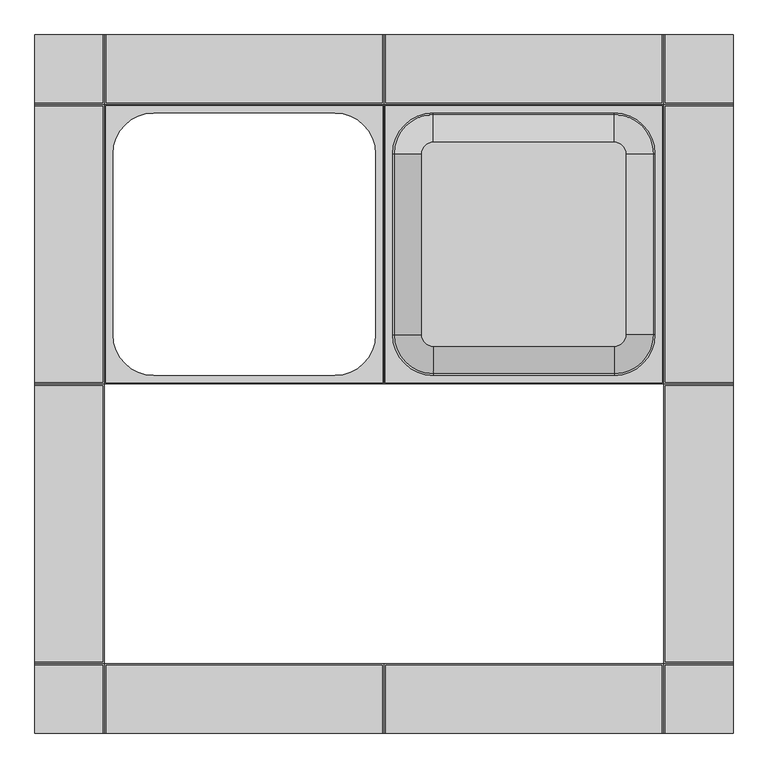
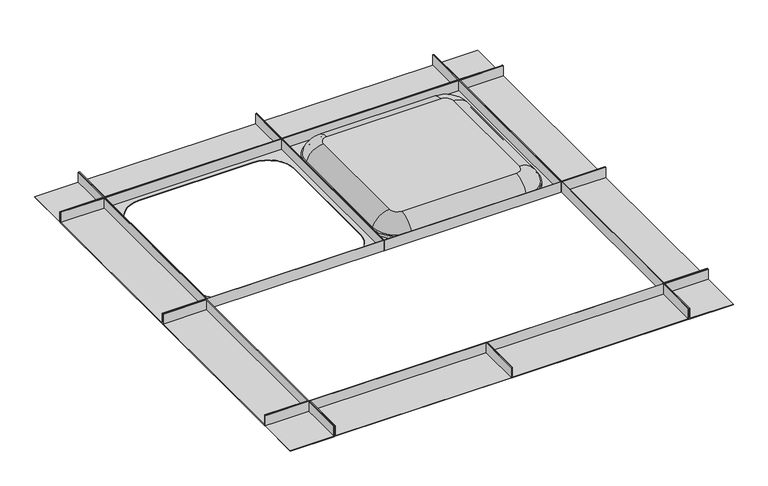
"""IFC4 building model written with IfcOpenShell, lengths in millimetres: proxy geometry, Maxxit_Concave-Ceiling_rev-01 : Maxxit_Concave-Ceiling_Solo."""

from ifc_helpers import new_model, si_unit, point, frame, origin, place, context, project, spatial, polyline, circle_curve, ellipse_curve, trimmed, faceted_brep, source, transform, mapped, element, save
from ifc_brep_helpers import plane_surface, cylinder_surface, revolved_surface, advanced_brep


def generic_models_7a7c092e(model_context):
    return source(origin(), model_context, "Body", "SolidModel", [
        faceted_brep([(150.8125, 1370.0125, 25.4), (0.0, 1370.0125, 25.4), (0.0, 1368.425, 25.4), (149.225, 1368.425, 25.4), (149.225, 763.5875, 25.4), (0.0, 763.5875, 25.4), (0.0, 762.0, 25.4), (150.8125, 762.0, 25.4), (150.8125, 1370.0125, -12.7), (150.8125, 762.0, -12.7), (0.0, 762.0, -12.7), (0.0, 1370.0125, -12.7), (0.0, 763.5875, -11.1125), (0.0, 1368.425, -11.1125), (149.225, 763.5875, -11.1125), (149.225, 1368.425, -11.1125)], [[[0, 1, 2, 3, 4, 5, 6, 7]], [[8, 9, 10, 11]], [[1, 0, 8, 11]], [[11, 10, 6, 5, 12, 13, 2, 1]], [[7, 6, 10, 9]], [[0, 7, 9, 8]], [[14, 15, 13, 12]], [[13, 15, 3, 2]], [[14, 12, 5, 4]], [[15, 14, 4, 3]]]),
        faceted_brep([(150.8125, 760.4125, 25.4), (0.0, 760.4125, 25.4), (0.0, 758.825, 25.4), (149.225, 758.825, 25.4), (149.225, 153.9875, 25.4), (0.0, 153.9875, 25.4), (0.0, 152.4, 25.4), (150.8125, 152.4, 25.4), (150.8125, 760.4125, -12.7), (150.8125, 152.4, -12.7), (0.0, 152.4, -12.7), (0.0, 760.4125, -12.7), (0.0, 153.9875, -11.1125), (0.0, 758.825, -11.1125), (149.225, 153.9875, -11.1125), (149.225, 758.825, -11.1125)], [[[0, 1, 2, 3, 4, 5, 6, 7]], [[8, 9, 10, 11]], [[1, 0, 8, 11]], [[11, 10, 6, 5, 12, 13, 2, 1]], [[7, 6, 10, 9]], [[0, 7, 9, 8]], [[14, 15, 13, 12]], [[13, 15, 3, 2]], [[14, 12, 5, 4]], [[15, 14, 4, 3]]]),
        faceted_brep([(1371.6, 1370.0125, 25.4), (1371.6, 762.0, 25.4), (1522.4125, 762.0, 25.4), (1522.4125, 763.5875, 25.4), (1373.1875, 763.5875, 25.4), (1373.1875, 1368.425, 25.4), (1522.4125, 1368.425, 25.4), (1522.4125, 1370.0125, 25.4), (1371.6, 1370.0125, -12.7), (1522.4125, 1370.0125, -12.7), (1522.4125, 762.0, -12.7), (1371.6, 762.0, -12.7), (1522.4125, 1368.425, -11.1125), (1522.4125, 763.5875, -11.1125), (1373.1875, 763.5875, -11.1125), (1373.1875, 1368.425, -11.1125)], [[[0, 1, 2, 3, 4, 5, 6, 7]], [[8, 9, 10, 11]], [[7, 9, 8, 0]], [[9, 7, 6, 12, 13, 3, 2, 10]], [[1, 11, 10, 2]], [[0, 8, 11, 1]], [[14, 13, 12, 15]], [[12, 6, 5, 15]], [[14, 4, 3, 13]], [[15, 5, 4, 14]]]),
        faceted_brep([(1371.6, 760.4125, 25.4), (1371.6, 152.4, 25.4), (1522.4125, 152.4, 25.4), (1522.4125, 153.9875, 25.4), (1373.1875, 153.9875, 25.4), (1373.1875, 758.825, 25.4), (1522.4125, 758.825, 25.4), (1522.4125, 760.4125, 25.4), (1371.6, 760.4125, -12.7), (1522.4125, 760.4125, -12.7), (1522.4125, 152.4, -12.7), (1371.6, 152.4, -12.7), (1522.4125, 758.825, -11.1125), (1522.4125, 153.9875, -11.1125), (1373.1875, 153.9875, -11.1125), (1373.1875, 758.825, -11.1125)], [[[0, 1, 2, 3, 4, 5, 6, 7]], [[8, 9, 10, 11]], [[7, 9, 8, 0]], [[9, 7, 6, 12, 13, 3, 2, 10]], [[1, 11, 10, 2]], [[0, 8, 11, 1]], [[14, 13, 12, 15]], [[12, 6, 5, 15]], [[14, 4, 3, 13]], [[15, 5, 4, 14]]]),
        faceted_brep([(1370.0125, 1371.6, 25.4), (1370.0125, 1522.4125, 25.4), (1368.425, 1522.4125, 25.4), (1368.425, 1373.1875, 25.4), (763.5875, 1373.1875, 25.4), (763.5875, 1522.4125, 25.4), (762.0, 1522.4125, 25.4), (762.0, 1371.6, 25.4), (1370.0125, 1371.6, -12.7), (762.0, 1371.6, -12.7), (762.0, 1522.4125, -12.7), (1370.0125, 1522.4125, -12.7), (763.5875, 1522.4125, -11.1125), (1368.425, 1522.4125, -11.1125), (1368.425, 1373.1875, -11.1125), (763.5875, 1373.1875, -11.1125)], [[[0, 1, 2, 3, 4, 5, 6, 7]], [[8, 9, 10, 11]], [[7, 9, 8, 0]], [[6, 10, 9, 7]], [[10, 6, 5, 12, 13, 2, 1, 11]], [[0, 8, 11, 1]], [[14, 13, 12, 15]], [[15, 4, 3, 14]], [[15, 12, 5, 4]], [[3, 2, 13, 14]]]),
        faceted_brep([(760.4125, 1371.6, 25.4), (760.4125, 1522.4125, 25.4), (758.825, 1522.4125, 25.4), (758.825, 1373.1875, 25.4), (153.9875, 1373.1875, 25.4), (153.9875, 1522.4125, 25.4), (152.4, 1522.4125, 25.4), (152.4, 1371.6, 25.4), (760.4125, 1371.6, -12.7), (152.4, 1371.6, -12.7), (152.4, 1522.4125, -12.7), (760.4125, 1522.4125, -12.7), (153.9875, 1522.4125, -11.1125), (758.825, 1522.4125, -11.1125), (758.825, 1373.1875, -11.1125), (153.9875, 1373.1875, -11.1125)], [[[0, 1, 2, 3, 4, 5, 6, 7]], [[8, 9, 10, 11]], [[7, 9, 8, 0]], [[6, 10, 9, 7]], [[10, 6, 5, 12, 13, 2, 1, 11]], [[0, 8, 11, 1]], [[14, 13, 12, 15]], [[15, 4, 3, 14]], [[15, 12, 5, 4]], [[3, 2, 13, 14]]]),
        faceted_brep([(1370.0125, 150.8125, 25.4), (762.0, 150.8125, 25.4), (762.0, 0.0, 25.4), (763.5875, 0.0, 25.4), (763.5875, 149.225, 25.4), (1368.425, 149.225, 25.4), (1368.425, 0.0, 25.4), (1370.0125, 0.0, 25.4), (1370.0125, 150.8125, -12.7), (1370.0125, 0.0, -12.7), (762.0, 0.0, -12.7), (762.0, 150.8125, -12.7), (1368.425, 0.0, -11.1125), (763.5875, 0.0, -11.1125), (1368.425, 149.225, -11.1125), (763.5875, 149.225, -11.1125)], [[[0, 1, 2, 3, 4, 5, 6, 7]], [[8, 9, 10, 11]], [[1, 0, 8, 11]], [[2, 1, 11, 10]], [[10, 9, 7, 6, 12, 13, 3, 2]], [[0, 7, 9, 8]], [[14, 15, 13, 12]], [[15, 14, 5, 4]], [[15, 4, 3, 13]], [[5, 14, 12, 6]]]),
        faceted_brep([(760.4125, 150.8125, 25.4), (152.4, 150.8125, 25.4), (152.4, 0.0, 25.4), (153.9875, 0.0, 25.4), (153.9875, 149.225, 25.4), (758.825, 149.225, 25.4), (758.825, 0.0, 25.4), (760.4125, 0.0, 25.4), (760.4125, 150.8125, -12.7), (760.4125, 0.0, -12.7), (152.4, 0.0, -12.7), (152.4, 150.8125, -12.7), (758.825, 0.0, -11.1125), (153.9875, 0.0, -11.1125), (758.825, 149.225, -11.1125), (153.9875, 149.225, -11.1125)], [[[0, 1, 2, 3, 4, 5, 6, 7]], [[8, 9, 10, 11]], [[1, 0, 8, 11]], [[2, 1, 11, 10]], [[10, 9, 7, 6, 12, 13, 3, 2]], [[0, 7, 9, 8]], [[14, 15, 13, 12]], [[15, 14, 5, 4]], [[15, 4, 3, 13]], [[5, 14, 12, 6]]]),
        faceted_brep([(1522.4125, 150.8125, 25.4), (1371.6, 150.8125, 25.4), (1371.6, 0.0, 25.4), (1373.1875, 0.0, 25.4), (1373.1875, 149.225, 25.4), (1522.4125, 149.225, 25.4), (1371.6, 0.0, -12.7), (1371.6, 150.8125, -12.7), (1522.4125, 150.8125, -12.7), (1522.4125, 0.0, -12.7), (1522.4125, 0.0, -11.1125), (1373.1875, 0.0, -11.1125), (1522.4125, 149.225, -11.1125), (1373.1875, 149.225, -11.1125)], [[[0, 1, 2, 3, 4, 5]], [[6, 7, 8, 9]], [[6, 9, 10, 11, 3, 2]], [[9, 8, 0, 5, 12, 10]], [[2, 1, 7, 6]], [[1, 0, 8, 7]], [[13, 11, 10, 12]], [[11, 13, 4, 3]], [[13, 12, 5, 4]]]),
        faceted_brep([(150.8125, 0.0, 25.4), (150.8125, 150.8125, 25.4), (0.0, 150.8125, 25.4), (0.0, 149.225, 25.4), (149.225, 149.225, 25.4), (149.225, 0.0, 25.4), (0.0, 150.8125, -12.7), (150.8125, 150.8125, -12.7), (150.8125, 0.0, -12.7), (0.0, 0.0, -12.7), (0.0, 0.0, -11.1125), (0.0, 149.225, -11.1125), (149.225, 0.0, -11.1125), (149.225, 149.225, -11.1125)], [[[0, 1, 2, 3, 4, 5]], [[6, 7, 8, 9]], [[6, 9, 10, 11, 3, 2]], [[9, 8, 0, 5, 12, 10]], [[1, 0, 8, 7]], [[2, 1, 7, 6]], [[13, 11, 10, 12]], [[11, 13, 4, 3]], [[13, 12, 5, 4]]]),
        faceted_brep([(150.8125, 1371.6, 25.4), (150.8125, 1522.4125, 25.4), (149.225, 1522.4125, 25.4), (149.225, 1373.1875, 25.4), (0.0, 1373.1875, 25.4), (0.0, 1371.6, 25.4), (150.8125, 1371.6, -12.7), (0.0, 1371.6, -12.7), (0.0, 1522.4125, -12.7), (150.8125, 1522.4125, -12.7), (0.0, 1522.4125, -11.1125), (149.225, 1522.4125, -11.1125), (0.0, 1373.1875, -11.1125), (149.225, 1373.1875, -11.1125)], [[[0, 1, 2, 3, 4, 5]], [[6, 7, 8, 9]], [[1, 0, 6, 9]], [[0, 5, 7, 6]], [[9, 8, 10, 11, 2, 1]], [[8, 7, 5, 4, 12, 10]], [[13, 11, 10, 12]], [[11, 13, 3, 2]], [[13, 12, 4, 3]]]),
        faceted_brep([(1371.6, 1522.4125, 25.4), (1371.6, 1371.6, 25.4), (1522.4125, 1371.6, 25.4), (1522.4125, 1373.1875, 25.4), (1373.1875, 1373.1875, 25.4), (1373.1875, 1522.4125, 25.4), (1371.6, 1522.4125, -12.7), (1522.4125, 1522.4125, -12.7), (1522.4125, 1371.6, -12.7), (1371.6, 1371.6, -12.7), (1373.1875, 1522.4125, -11.1125), (1522.4125, 1522.4125, -11.1125), (1522.4125, 1373.1875, -11.1125), (1373.1875, 1373.1875, -11.1125)], [[[0, 1, 2, 3, 4, 5]], [[6, 7, 8, 9]], [[7, 6, 0, 5, 10, 11]], [[1, 0, 6, 9]], [[2, 1, 9, 8]], [[8, 7, 11, 12, 3, 2]], [[13, 12, 11, 10]], [[12, 13, 4, 3]], [[13, 10, 5, 4]]]),
        advanced_brep(
        [(762.0, 762.0, -12.7), (762.0, 1370.0125, -12.7), (1370.0125, 1370.0125, -12.7), (1370.0125, 762.0, -12.7), (1352.0125, 869.0, -12.7), (1352.0125, 1263.0125, -12.7), (1263.0125, 1352.0125, -12.7), (869.0, 1352.0125, -12.7), (780.0, 1263.0125, -12.7), (780.0, 869.0, -12.7), (869.0, 780.0, -12.7), (1263.0125, 780.0, -12.7), (762.0, 762.0, 25.4), (1370.0125, 762.0, 25.4), (1370.0125, 1370.0125, 25.4), (762.0, 1370.0125, 25.4), (1368.425, 763.5875, 25.4), (763.5875, 763.5875, 25.4), (763.5875, 1368.425, 25.4), (1368.425, 1368.425, 25.4), (1352.0125, 869.0, -11.1125), (1352.0125, 1263.0125, -11.1125), (1263.0125, 780.0, -11.1125), (1263.0125, 1352.0125, -11.1125), (869.0, 780.0, -11.1125), (780.0, 869.0, -11.1125), (780.0, 1263.0125, -11.1125), (869.0, 1352.0125, -11.1125), (763.5875, 763.5875, -11.1125), (1368.425, 763.5875, -11.1125), (1368.425, 1368.425, -11.1125), (763.5875, 1368.425, -11.1125)],
        [
            (0, 1),
            (1, 2),
            (2, 3),
            (3, 0),
            (4, 5),
            (5, 6, circle_curve(frame((1263.0125, 1263.0125, -12.7), z_axis=(0.0, 0.0, 1.0), x_axis=(-1.0, 0.0, 0.0)), 89.0)),
            (6, 7),
            (7, 8, circle_curve(frame((869.0, 1263.0125, -12.7), z_axis=(0.0, 0.0, 1.0), x_axis=(-1.0, 0.0, 0.0)), 89.0)),
            (8, 9),
            (9, 10, circle_curve(frame((869.0, 869.0, -12.7), z_axis=(0.0, 0.0, 1.0), x_axis=(-1.0, 0.0, 0.0)), 89.0)),
            (10, 11),
            (11, 4, circle_curve(frame((1263.0125, 869.0, -12.7), z_axis=(0.0, 0.0, 1.0), x_axis=(-1.0, 0.0, 0.0)), 89.0)),
            (12, 13),
            (13, 14),
            (14, 15),
            (15, 12),
            (16, 17),
            (17, 18),
            (18, 19),
            (19, 16),
            (12, 0),
            (3, 13),
            (2, 14),
            (1, 15),
            (4, 20),
            (20, 21),
            (21, 5),
            (11, 22),
            (22, 20, circle_curve(frame((1263.0125, 869.0, -11.1125), z_axis=(0.0, 0.0, 1.0), x_axis=(-1.0, 0.0, 0.0)), 89.0)),
            (21, 23, circle_curve(frame((1263.0125, 1263.0125, -11.1125), z_axis=(0.0, 0.0, 1.0), x_axis=(-1.0, 0.0, 0.0)), 89.0)),
            (23, 6),
            (10, 24),
            (24, 22),
            (9, 25),
            (25, 24, circle_curve(frame((869.0, 869.0, -11.1125), z_axis=(0.0, 0.0, 1.0), x_axis=(-1.0, 0.0, 0.0)), 89.0)),
            (8, 26),
            (26, 25),
            (7, 27),
            (27, 26, circle_curve(frame((869.0, 1263.0125, -11.1125), z_axis=(0.0, 0.0, 1.0), x_axis=(-1.0, 0.0, 0.0)), 89.0)),
            (23, 27),
            (28, 29),
            (29, 30),
            (30, 31),
            (31, 28),
            (28, 17),
            (16, 29),
            (19, 30),
            (18, 31),
        ],
        [
            plane_surface(frame((1370.0125, 762.0, -12.7), z_axis=(0.0, 0.0, -1.0), x_axis=(-1.0, 0.0, 0.0))),
            plane_surface(frame((1370.0125, 762.0, 25.4), z_axis=(0.0, 0.0, 1.0), x_axis=(1.0, 0.0, 0.0))),
            plane_surface(frame((762.0, 762.0, 25.4), z_axis=(0.0, -1.0, 0.0), x_axis=(0.0, 0.0, -1.0))),
            plane_surface(frame((1370.0125, 762.0, 25.4), z_axis=(1.0, 0.0, 0.0), x_axis=(0.0, 0.0, -1.0))),
            plane_surface(frame((1370.0125, 1370.0125, 25.4), z_axis=(0.0, 1.0, 0.0), x_axis=(0.0, 0.0, -1.0))),
            plane_surface(frame((762.0, 1370.0125, 25.4), z_axis=(-1.0, 0.0, 0.0), x_axis=(0.0, 0.0, -1.0))),
            plane_surface(frame((1352.0125, 1263.0125, 25.4), z_axis=(-1.0, 0.0, 0.0), x_axis=(0.0, 0.0, -1.0))),
            revolved_surface(polyline([(1174.0125, 869.0, -12.7), (1174.0125, 869.0, -11.1125)]), (1263.0125, 869.0, 0.0), (0.0, 0.0, -1.0)),
            revolved_surface(polyline([(1174.0125, 1263.0125, -12.7), (1174.0125, 1263.0125, -11.1125)]), (1263.0125, 1263.0125, 0.0), (0.0, 0.0, -1.0)),
            plane_surface(frame((1263.0125, 780.0, 25.4), z_axis=(0.0, 1.0, 0.0), x_axis=(0.0, 0.0, -1.0))),
            revolved_surface(polyline([(780.0, 869.0, -12.7), (780.0, 869.0, -11.1125)]), (869.0, 869.0, 0.0), (0.0, 0.0, -1.0)),
            plane_surface(frame((780.0, 869.0, 25.4), z_axis=(1.0, 0.0, 0.0), x_axis=(0.0, 0.0, -1.0))),
            revolved_surface(polyline([(780.0, 1263.0125, -12.7), (780.0, 1263.0125, -11.1125)]), (869.0, 1263.0125, 0.0), (0.0, 0.0, -1.0)),
            plane_surface(frame((869.0, 1352.0125, 25.4), z_axis=(0.0, -1.0, 0.0), x_axis=(0.0, 0.0, -1.0))),
            plane_surface(frame((1369.0262746, 763.5875, -11.1125), z_axis=(0.0, 0.0, 1.0), x_axis=(-1.0, 0.0, 0.0))),
            plane_surface(frame((763.5875, 763.5875, 27.1388986), z_axis=(0.0, 1.0, 0.0), x_axis=(0.0, 0.0, -1.0))),
            plane_surface(frame((1368.425, 763.5875, 27.1388986), z_axis=(-1.0, 0.0, 0.0), x_axis=(0.0, 0.0, -1.0))),
            plane_surface(frame((1368.425, 1368.425, 27.1388986), z_axis=(0.0, -1.0, 0.0), x_axis=(0.0, 0.0, -1.0))),
            plane_surface(frame((763.5875, 1368.425, 27.1388986), z_axis=(1.0, 0.0, 0.0), x_axis=(0.0, 0.0, -1.0))),
        ],
        [
            (0, [[1, 2, 3, 4], [5, 6, 7, 8, 9, 10, 11, 12]]),
            (1, [[13, 14, 15, 16], [17, 18, 19, 20]]),
            (2, [[-13, 21, -4, 22]]),
            (3, [[-14, -22, -3, 23]]),
            (4, [[-15, -23, -2, 24]]),
            (5, [[-16, -24, -1, -21]]),
            (6, [[-5, 25, 26, 27]]),
            (7, [[-12, 28, 29, -25]]),
            (8, [[-6, -27, 30, 31]]),
            (9, [[-11, 32, 33, -28]]),
            (10, [[-10, 34, 35, -32]]),
            (11, [[-9, 36, 37, -34]]),
            (12, [[-8, 38, 39, -36]]),
            (13, [[-7, -31, 40, -38]]),
            (14, [[41, 42, 43, 44], [-26, -29, -33, -35, -37, -39, -40, -30]]),
            (15, [[-41, 45, -17, 46]]),
            (16, [[-42, -46, -20, 47]]),
            (17, [[-43, -47, -19, 48]]),
            (18, [[-44, -48, -18, -45]]),
        ],
    ),
        advanced_brep(
        [(1288.6117964, 1263.0125, 44.45), (1263.0125, 1288.6117964, 44.45), (869.0, 1288.6117964, 44.45), (843.4007036, 1263.0125, 44.45), (843.4007036, 869.0, 44.45), (869.0, 843.4007036, 44.45), (1263.0125, 843.4007036, 44.45), (1288.6117964, 869.0, 44.45), (1263.0125, 1288.6117964, 34.925), (1288.6117964, 1263.0125, 34.925), (1288.6117964, 869.0, 34.925), (1263.0125, 843.4007036, 34.925), (869.0, 843.4007036, 34.925), (843.4007036, 869.0, 34.925), (843.4007036, 1263.0125, 34.925), (869.0, 1288.6117964, 34.925), (1263.0125, 1352.0125, -1.5875), (1352.0125, 1263.0125, -1.5875), (1352.0125, 1263.0125, -11.1125), (1263.0125, 1352.0125, -11.1125), (1263.0125, 1348.9934189, 0.6047619), (1348.9934189, 1263.0125, 0.6047619), (1263.0125, 1339.9361755, -2.3434524), (1339.9361755, 1263.0125, -2.3434524), (869.0, 1352.0125, -11.1125), (869.0, 1352.0125, -1.5875), (869.0, 1348.9934189, 0.6047619), (869.0, 1339.9361755, -2.3434524), (780.0, 1263.0125, -11.1125), (780.0, 1263.0125, -1.5875), (783.0190811, 1263.0125, 0.6047619), (792.0763245, 1263.0125, -2.3434524), (780.0, 869.0, -11.1125), (780.0, 869.0, -1.5875), (783.0190811, 869.0, 0.6047619), (792.0763245, 869.0, -2.3434524), (869.0, 780.0, -11.1125), (869.0, 780.0, -1.5875), (869.0, 783.0190811, 0.6047619), (869.0, 792.0763245, -2.3434524), (1263.0125, 780.0, -11.1125), (1263.0125, 780.0, -1.5875), (1263.0125, 783.0190811, 0.6047619), (1263.0125, 792.0763245, -2.3434524), (1352.0125, 869.0, -11.1125), (1352.0125, 869.0, -1.5875), (1348.9934189, 869.0, 0.6047619), (1339.9361755, 869.0, -2.3434524)],
        [
            (0, 1, circle_curve(frame((1263.0125, 1263.0125, 44.45), z_axis=(0.0, 0.0, 1.0), x_axis=(1.0, 0.0, 0.0)), 25.5992964)),
            (1, 2),
            (2, 3, circle_curve(frame((869.0, 1263.0125, 44.45), z_axis=(0.0, 0.0, 1.0), x_axis=(0.0, 1.0, 0.0)), 25.5992964)),
            (3, 4),
            (4, 5, circle_curve(frame((869.0, 869.0, 44.45), z_axis=(0.0, 0.0, 1.0), x_axis=(-1.0, 0.0, 0.0)), 25.5992964)),
            (5, 6),
            (6, 7, circle_curve(frame((1263.0125, 869.0, 44.45), z_axis=(0.0, 0.0, 1.0), x_axis=(0.0, -1.0, 0.0)), 25.5992964)),
            (7, 0),
            (8, 9, circle_curve(frame((1263.0125, 1263.0125, 34.925), z_axis=(0.0, 0.0, -1.0), x_axis=(1.0, 0.0, 0.0)), 25.5992964)),
            (9, 10),
            (10, 11, circle_curve(frame((1263.0125, 869.0, 34.925), z_axis=(0.0, 0.0, -1.0), x_axis=(0.0, -1.0, 0.0)), 25.5992964)),
            (11, 12),
            (12, 13, circle_curve(frame((869.0, 869.0, 34.925), z_axis=(0.0, 0.0, -1.0), x_axis=(-1.0, 0.0, 0.0)), 25.5992964)),
            (13, 14),
            (14, 15, circle_curve(frame((869.0, 1263.0125, 34.925), z_axis=(0.0, 0.0, -1.0), x_axis=(0.0, 1.0, 0.0)), 25.5992964)),
            (15, 8),
            (16, 17, circle_curve(frame((1263.0125, 1263.0125, -1.5875), z_axis=(0.0, 0.0, -1.0), x_axis=(1.0, 0.0, 0.0)), 89.0)),
            (17, 18),
            (18, 19, circle_curve(frame((1263.0125, 1263.0125, -11.1125), z_axis=(0.0, 0.0, 1.0), x_axis=(1.0, 0.0, 0.0)), 89.0)),
            (19, 16),
            (16, 20, circle_curve(frame((1263.0125, 1352.0125, 1.5875), z_axis=(-1.0, 0.0, 0.0), x_axis=(0.0, -1.0, 0.0)), 3.175)),
            (20, 21, circle_curve(frame((1263.0125, 1263.0125, 0.6047619), z_axis=(0.0, 0.0, -1.0), x_axis=(1.0, 0.0, 0.0)), 85.9809189)),
            (21, 17, circle_curve(frame((1352.0125, 1263.0125, 1.5875), z_axis=(0.0, -1.0, 0.0), x_axis=(-1.0, 0.0, 0.0)), 3.175)),
            (20, 1, circle_curve(frame((1263.0125, 1288.6117964, -19.05), z_axis=(1.0, 0.0, 0.0), x_axis=(0.0, -1.0, 0.0)), 63.5)),
            (0, 21, circle_curve(frame((1288.6117964, 1263.0125, -19.05), z_axis=(0.0, 1.0, 0.0), x_axis=(-1.0, 0.0, 0.0)), 63.5)),
            (22, 23, circle_curve(frame((1263.0125, 1263.0125, -2.3434524), z_axis=(0.0, 0.0, -1.0), x_axis=(1.0, 0.0, 0.0)), 76.9236755)),
            (23, 9, circle_curve(frame((1288.6117964, 1263.0125, -19.05), z_axis=(0.0, -1.0, 0.0), x_axis=(-1.0, 0.0, 0.0)), 53.975)),
            (8, 22, circle_curve(frame((1263.0125, 1288.6117964, -19.05), z_axis=(-1.0, 0.0, 0.0), x_axis=(0.0, -1.0, 0.0)), 53.975)),
            (18, 23, circle_curve(frame((1352.0125, 1263.0125, 1.5875), z_axis=(0.0, 1.0, 0.0), x_axis=(-1.0, 0.0, 0.0)), 12.7)),
            (22, 19, circle_curve(frame((1263.0125, 1352.0125, 1.5875), z_axis=(1.0, 0.0, 0.0), x_axis=(0.0, -1.0, 0.0)), 12.7)),
            (19, 24),
            (24, 25),
            (25, 16),
            (25, 26, circle_curve(frame((869.0, 1352.0125, 1.5875), z_axis=(-1.0, 0.0, 0.0), x_axis=(0.0, -1.0, 0.0)), 3.175)),
            (26, 20),
            (26, 2, circle_curve(frame((869.0, 1288.6117964, -19.05), z_axis=(1.0, 0.0, 0.0), x_axis=(0.0, -1.0, 0.0)), 63.5)),
            (15, 27, circle_curve(frame((869.0, 1288.6117964, -19.05), z_axis=(-1.0, 0.0, 0.0), x_axis=(0.0, -1.0, 0.0)), 53.975)),
            (27, 22),
            (27, 24, circle_curve(frame((869.0, 1352.0125, 1.5875), z_axis=(1.0, 0.0, 0.0), x_axis=(0.0, -1.0, 0.0)), 12.7)),
            (24, 28, circle_curve(frame((869.0, 1263.0125, -11.1125), z_axis=(0.0, 0.0, 1.0), x_axis=(0.0, 1.0, 0.0)), 89.0)),
            (28, 29),
            (29, 25, circle_curve(frame((869.0, 1263.0125, -1.5875), z_axis=(0.0, 0.0, -1.0), x_axis=(0.0, 1.0, 0.0)), 89.0)),
            (29, 30, circle_curve(frame((780.0, 1263.0125, 1.5875), z_axis=(0.0, -1.0, 0.0), x_axis=(1.0, 0.0, 0.0)), 3.175)),
            (30, 26, circle_curve(frame((869.0, 1263.0125, 0.6047619), z_axis=(0.0, 0.0, -1.0), x_axis=(0.0, 1.0, 0.0)), 85.9809189)),
            (30, 3, circle_curve(frame((843.4007036, 1263.0125, -19.05), z_axis=(0.0, 1.0, 0.0), x_axis=(1.0, 0.0, 0.0)), 63.5)),
            (14, 31, circle_curve(frame((843.4007036, 1263.0125, -19.05), z_axis=(0.0, -1.0, 0.0), x_axis=(1.0, 0.0, 0.0)), 53.975)),
            (31, 27, circle_curve(frame((869.0, 1263.0125, -2.3434524), z_axis=(0.0, 0.0, -1.0), x_axis=(0.0, 1.0, 0.0)), 76.9236755)),
            (31, 28, circle_curve(frame((780.0, 1263.0125, 1.5875), z_axis=(0.0, 1.0, 0.0), x_axis=(1.0, 0.0, 0.0)), 12.7)),
            (28, 32),
            (32, 33),
            (33, 29),
            (33, 34, circle_curve(frame((780.0, 869.0, 1.5875), z_axis=(0.0, -1.0, 0.0), x_axis=(1.0, 0.0, 0.0)), 3.175)),
            (34, 30),
            (34, 4, circle_curve(frame((843.4007036, 869.0, -19.05), z_axis=(0.0, 1.0, 0.0), x_axis=(1.0, 0.0, 0.0)), 63.5)),
            (13, 35, circle_curve(frame((843.4007036, 869.0, -19.05), z_axis=(0.0, -1.0, 0.0), x_axis=(1.0, 0.0, 0.0)), 53.975)),
            (35, 31),
            (35, 32, circle_curve(frame((780.0, 869.0, 1.5875), z_axis=(0.0, 1.0, 0.0), x_axis=(1.0, 0.0, 0.0)), 12.7)),
            (32, 36, circle_curve(frame((869.0, 869.0, -11.1125), z_axis=(0.0, 0.0, 1.0), x_axis=(-1.0, 0.0, 0.0)), 89.0)),
            (36, 37),
            (37, 33, circle_curve(frame((869.0, 869.0, -1.5875), z_axis=(0.0, 0.0, -1.0), x_axis=(-1.0, 0.0, 0.0)), 89.0)),
            (37, 38, circle_curve(frame((869.0, 780.0, 1.5875), z_axis=(1.0, 0.0, 0.0), x_axis=(0.0, 1.0, 0.0)), 3.175)),
            (38, 34, circle_curve(frame((869.0, 869.0, 0.6047619), z_axis=(0.0, 0.0, -1.0), x_axis=(-1.0, 0.0, 0.0)), 85.9809189)),
            (38, 5, circle_curve(frame((869.0, 843.4007036, -19.05), z_axis=(-1.0, 0.0, 0.0), x_axis=(0.0, 1.0, 0.0)), 63.5)),
            (12, 39, circle_curve(frame((869.0, 843.4007036, -19.05), z_axis=(1.0, 0.0, 0.0), x_axis=(0.0, 1.0, 0.0)), 53.975)),
            (39, 35, circle_curve(frame((869.0, 869.0, -2.3434524), z_axis=(0.0, 0.0, -1.0), x_axis=(-1.0, 0.0, 0.0)), 76.9236755)),
            (39, 36, circle_curve(frame((869.0, 780.0, 1.5875), z_axis=(-1.0, 0.0, 0.0), x_axis=(0.0, 1.0, 0.0)), 12.7)),
            (36, 40),
            (40, 41),
            (41, 37),
            (41, 42, circle_curve(frame((1263.0125, 780.0, 1.5875), z_axis=(1.0, 0.0, 0.0), x_axis=(0.0, 1.0, 0.0)), 3.175)),
            (42, 38),
            (42, 6, circle_curve(frame((1263.0125, 843.4007036, -19.05), z_axis=(-1.0, 0.0, 0.0), x_axis=(0.0, 1.0, 0.0)), 63.5)),
            (11, 43, circle_curve(frame((1263.0125, 843.4007036, -19.05), z_axis=(1.0, 0.0, 0.0), x_axis=(0.0, 1.0, 0.0)), 53.975)),
            (43, 39),
            (43, 40, circle_curve(frame((1263.0125, 780.0, 1.5875), z_axis=(-1.0, 0.0, 0.0), x_axis=(0.0, 1.0, 0.0)), 12.7)),
            (40, 44, circle_curve(frame((1263.0125, 869.0, -11.1125), z_axis=(0.0, 0.0, 1.0), x_axis=(0.0, -1.0, 0.0)), 89.0)),
            (44, 45),
            (45, 41, circle_curve(frame((1263.0125, 869.0, -1.5875), z_axis=(0.0, 0.0, -1.0), x_axis=(0.0, -1.0, 0.0)), 89.0)),
            (45, 46, circle_curve(frame((1352.0125, 869.0, 1.5875), z_axis=(0.0, 1.0, 0.0), x_axis=(-1.0, 0.0, 0.0)), 3.175)),
            (46, 42, circle_curve(frame((1263.0125, 869.0, 0.6047619), z_axis=(0.0, 0.0, -1.0), x_axis=(0.0, -1.0, 0.0)), 85.9809189)),
            (46, 7, circle_curve(frame((1288.6117964, 869.0, -19.05), z_axis=(0.0, -1.0, 0.0), x_axis=(-1.0, 0.0, 0.0)), 63.5)),
            (10, 47, circle_curve(frame((1288.6117964, 869.0, -19.05), z_axis=(0.0, 1.0, 0.0), x_axis=(-1.0, 0.0, 0.0)), 53.975)),
            (47, 43, circle_curve(frame((1263.0125, 869.0, -2.3434524), z_axis=(0.0, 0.0, -1.0), x_axis=(0.0, -1.0, 0.0)), 76.9236755)),
            (47, 44, circle_curve(frame((1352.0125, 869.0, 1.5875), z_axis=(0.0, -1.0, 0.0), x_axis=(-1.0, 0.0, 0.0)), 12.7)),
            (17, 45),
            (44, 18),
            (21, 46),
            (23, 47),
        ],
        [
            plane_surface(frame((859.6573389, 869.0, 44.45), z_axis=(0.0, 0.0, 1.0), x_axis=(0.0, -1.0, 0.0))),
            plane_surface(frame((859.6573389, 869.0, 34.925), z_axis=(0.0, 0.0, -1.0), x_axis=(0.0, 1.0, 0.0))),
            cylinder_surface(frame((1263.0125, 1263.0125, 25.4), z_axis=(0.0, 0.0, 1.0), x_axis=(1.0, 0.0, 0.0)), 89.0),
            revolved_surface(trimmed(ellipse_curve(frame((1352.0125, 1263.0125, 1.5875), z_axis=(0.0, 1.0, 0.0), x_axis=(-1.0, 0.0, 0.0)), 3.175, 3.175), [point((1352.0125, 1263.0125, -1.5875))], [point((1348.9934189, 1263.0125, 0.6047619))], True, "CARTESIAN"), (1263.0125, 1263.0125, 25.4), (0.0, 0.0, 1.0)),
            revolved_surface(trimmed(ellipse_curve(frame((1288.6117964, 1263.0125, -19.05), z_axis=(0.0, -1.0, 0.0), x_axis=(-1.0, 0.0, 0.0)), 63.5, 63.5), [point((1348.9934189, 1263.0125, 0.6047619))], [point((1288.6117964, 1263.0125, 44.45))], True, "CARTESIAN"), (1263.0125, 1263.0125, 25.4), (0.0, 0.0, 1.0)),
            revolved_surface(trimmed(ellipse_curve(frame((1288.6117964, 1263.0125, -19.05), z_axis=(0.0, 1.0, 0.0), x_axis=(-1.0, 0.0, 0.0)), 53.975, 53.975), [point((1288.6117964, 1263.0125, 34.925))], [point((1339.9361755, 1263.0125, -2.3434524))], True, "CARTESIAN"), (1263.0125, 1263.0125, 25.4), (0.0, 0.0, 1.0)),
            revolved_surface(trimmed(ellipse_curve(frame((1352.0125, 1263.0125, 1.5875), z_axis=(0.0, -1.0, 0.0), x_axis=(-1.0, 0.0, 0.0)), 12.7, 12.7), [point((1339.9361755, 1263.0125, -2.3434524))], [point((1352.0125, 1263.0125, -11.1125))], True, "CARTESIAN"), (1263.0125, 1263.0125, 25.4), (0.0, 0.0, 1.0)),
            plane_surface(frame((1263.0125, 1352.0125, -11.1125), z_axis=(0.0, 1.0, 0.0), x_axis=(-1.0, 0.0, 0.0))),
            revolved_surface(polyline([(869.0, 1348.8375, 1.5875), (1263.0125, 1348.8375, 1.5875)]), (1263.0125, 1352.0125, 1.5875), (-1.0, 0.0, 0.0)),
            cylinder_surface(frame((1263.0125, 1288.6117964, -19.05), z_axis=(1.0, 0.0, 0.0), x_axis=(0.0, -1.0, 0.0)), 63.5),
            revolved_surface(polyline([(869.0, 1234.6367964, -19.05), (1263.0125, 1234.6367964, -19.05)]), (1263.0125, 1288.6117964, -19.05), (-1.0, 0.0, 0.0)),
            cylinder_surface(frame((1263.0125, 1352.0125, 1.5875), z_axis=(1.0, 0.0, 0.0), x_axis=(0.0, -1.0, 0.0)), 12.7),
            cylinder_surface(frame((869.0, 1263.0125, 25.4), z_axis=(0.0, 0.0, 1.0), x_axis=(0.0, 1.0, 0.0)), 89.0),
            revolved_surface(trimmed(ellipse_curve(frame((869.0, 1352.0125, 1.5875), z_axis=(-1.0, 0.0, 0.0), x_axis=(0.0, -1.0, 0.0)), 3.175, 3.175), [point((869.0, 1352.0125, -1.5875))], [point((869.0, 1348.9934189, 0.6047619))], True, "CARTESIAN"), (869.0, 1263.0125, 25.4), (0.0, 0.0, 1.0)),
            revolved_surface(trimmed(ellipse_curve(frame((869.0, 1288.6117964, -19.05), z_axis=(1.0, 0.0, 0.0), x_axis=(0.0, -1.0, 0.0)), 63.5, 63.5), [point((869.0, 1348.9934189, 0.6047619))], [point((869.0, 1288.6117964, 44.45))], True, "CARTESIAN"), (869.0, 1263.0125, 25.4), (0.0, 0.0, 1.0)),
            revolved_surface(trimmed(ellipse_curve(frame((869.0, 1288.6117964, -19.05), z_axis=(-1.0, 0.0, 0.0), x_axis=(0.0, -1.0, 0.0)), 53.975, 53.975), [point((869.0, 1288.6117964, 34.925))], [point((869.0, 1339.9361755, -2.3434524))], True, "CARTESIAN"), (869.0, 1263.0125, 25.4), (0.0, 0.0, 1.0)),
            revolved_surface(trimmed(ellipse_curve(frame((869.0, 1352.0125, 1.5875), z_axis=(1.0, 0.0, 0.0), x_axis=(0.0, -1.0, 0.0)), 12.7, 12.7), [point((869.0, 1339.9361755, -2.3434524))], [point((869.0, 1352.0125, -11.1125))], True, "CARTESIAN"), (869.0, 1263.0125, 25.4), (0.0, 0.0, 1.0)),
            plane_surface(frame((780.0, 1263.0125, -11.1125), z_axis=(-1.0, 0.0, 0.0), x_axis=(0.0, -1.0, 0.0))),
            revolved_surface(polyline([(783.175, 869.0, 1.5875), (783.175, 1263.0125, 1.5875)]), (780.0, 1263.0125, 1.5875), (0.0, -1.0, 0.0)),
            cylinder_surface(frame((843.4007036, 1263.0125, -19.05), z_axis=(0.0, 1.0, 0.0), x_axis=(1.0, 0.0, 0.0)), 63.5),
            revolved_surface(polyline([(897.3757036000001, 869.0, -19.05), (897.3757036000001, 1263.0125, -19.05)]), (843.4007036, 1263.0125, -19.05), (0.0, -1.0, 0.0)),
            cylinder_surface(frame((780.0, 1263.0125, 1.5875), z_axis=(0.0, 1.0, 0.0), x_axis=(1.0, 0.0, 0.0)), 12.7),
            cylinder_surface(frame((869.0, 869.0, 25.4), z_axis=(0.0, 0.0, 1.0), x_axis=(-1.0, 0.0, 0.0)), 89.0),
            revolved_surface(trimmed(ellipse_curve(frame((780.0, 869.0, 1.5875), z_axis=(0.0, -1.0, 0.0), x_axis=(1.0, 0.0, 0.0)), 3.175, 3.175), [point((780.0, 869.0, -1.5875))], [point((783.0190811, 869.0, 0.6047619))], True, "CARTESIAN"), (869.0, 869.0, 25.4), (0.0, 0.0, 1.0)),
            revolved_surface(trimmed(ellipse_curve(frame((843.4007036, 869.0, -19.05), z_axis=(0.0, 1.0, 0.0), x_axis=(1.0, 0.0, 0.0)), 63.5, 63.5), [point((783.0190811, 869.0, 0.6047619))], [point((843.4007036, 869.0, 44.45))], True, "CARTESIAN"), (869.0, 869.0, 25.4), (0.0, 0.0, 1.0)),
            revolved_surface(trimmed(ellipse_curve(frame((843.4007036, 869.0, -19.05), z_axis=(0.0, -1.0, 0.0), x_axis=(1.0, 0.0, 0.0)), 53.975, 53.975), [point((843.4007036, 869.0, 34.925))], [point((792.0763245, 869.0, -2.3434524))], True, "CARTESIAN"), (869.0, 869.0, 25.4), (0.0, 0.0, 1.0)),
            revolved_surface(trimmed(ellipse_curve(frame((780.0, 869.0, 1.5875), z_axis=(0.0, 1.0, 0.0), x_axis=(1.0, 0.0, 0.0)), 12.7, 12.7), [point((792.0763245, 869.0, -2.3434524))], [point((780.0, 869.0, -11.1125))], True, "CARTESIAN"), (869.0, 869.0, 25.4), (0.0, 0.0, 1.0)),
            plane_surface(frame((869.0, 780.0, -11.1125), z_axis=(0.0, -1.0, 0.0), x_axis=(1.0, 0.0, 0.0))),
            revolved_surface(polyline([(1263.0125, 783.175, 1.5875), (869.0, 783.175, 1.5875)]), (869.0, 780.0, 1.5875), (1.0, 0.0, 0.0)),
            cylinder_surface(frame((869.0, 843.4007036, -19.05), z_axis=(-1.0, 0.0, 0.0), x_axis=(0.0, 1.0, 0.0)), 63.5),
            revolved_surface(polyline([(1263.0125, 897.3757036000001, -19.05), (869.0, 897.3757036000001, -19.05)]), (869.0, 843.4007036, -19.05), (1.0, 0.0, 0.0)),
            cylinder_surface(frame((869.0, 780.0, 1.5875), z_axis=(-1.0, 0.0, 0.0), x_axis=(0.0, 1.0, 0.0)), 12.7),
            cylinder_surface(frame((1263.0125, 869.0, 25.4), z_axis=(0.0, 0.0, 1.0), x_axis=(0.0, -1.0, 0.0)), 89.0),
            revolved_surface(trimmed(ellipse_curve(frame((1263.0125, 780.0, 1.5875), z_axis=(1.0, 0.0, 0.0), x_axis=(0.0, 1.0, 0.0)), 3.175, 3.175), [point((1263.0125, 780.0, -1.5875))], [point((1263.0125, 783.0190811, 0.6047619))], True, "CARTESIAN"), (1263.0125, 869.0, 25.4), (0.0, 0.0, 1.0)),
            revolved_surface(trimmed(ellipse_curve(frame((1263.0125, 843.4007036, -19.05), z_axis=(-1.0, 0.0, 0.0), x_axis=(0.0, 1.0, 0.0)), 63.5, 63.5), [point((1263.0125, 783.0190811, 0.6047619))], [point((1263.0125, 843.4007036, 44.45))], True, "CARTESIAN"), (1263.0125, 869.0, 25.4), (0.0, 0.0, 1.0)),
            revolved_surface(trimmed(ellipse_curve(frame((1263.0125, 843.4007036, -19.05), z_axis=(1.0, 0.0, 0.0), x_axis=(0.0, 1.0, 0.0)), 53.975, 53.975), [point((1263.0125, 843.4007036, 34.925))], [point((1263.0125, 792.0763245, -2.3434524))], True, "CARTESIAN"), (1263.0125, 869.0, 25.4), (0.0, 0.0, 1.0)),
            revolved_surface(trimmed(ellipse_curve(frame((1263.0125, 780.0, 1.5875), z_axis=(-1.0, 0.0, 0.0), x_axis=(0.0, 1.0, 0.0)), 12.7, 12.7), [point((1263.0125, 792.0763245, -2.3434524))], [point((1263.0125, 780.0, -11.1125))], True, "CARTESIAN"), (1263.0125, 869.0, 25.4), (0.0, 0.0, 1.0)),
            plane_surface(frame((1352.0125, 869.0, -11.1125), z_axis=(1.0, 0.0, 0.0), x_axis=(0.0, 1.0, 0.0))),
            revolved_surface(polyline([(1348.8375, 1263.0125, 1.5875), (1348.8375, 869.0, 1.5875)]), (1352.0125, 869.0, 1.5875), (0.0, 1.0, 0.0)),
            cylinder_surface(frame((1288.6117964, 869.0, -19.05), z_axis=(0.0, -1.0, 0.0), x_axis=(-1.0, 0.0, 0.0)), 63.5),
            revolved_surface(polyline([(1234.6367964, 1263.0125, -19.05), (1234.6367964, 869.0, -19.05)]), (1288.6117964, 869.0, -19.05), (0.0, 1.0, 0.0)),
            cylinder_surface(frame((1352.0125, 869.0, 1.5875), z_axis=(0.0, -1.0, 0.0), x_axis=(-1.0, 0.0, 0.0)), 12.7),
        ],
        [
            (0, [[1, 2, 3, 4, 5, 6, 7, 8]]),
            (1, [[9, 10, 11, 12, 13, 14, 15, 16]]),
            (2, [[17, 18, 19, 20]]),
            (3, [[-17, 21, 22, 23]]),
            (4, [[-22, 24, -1, 25]]),
            (5, [[26, 27, -9, 28]]),
            (6, [[-19, 29, -26, 30]]),
            (7, [[-20, 31, 32, 33]]),
            (8, [[-21, -33, 34, 35]]),
            (9, [[-24, -35, 36, -2]]),
            (10, [[-28, -16, 37, 38]]),
            (11, [[-30, -38, 39, -31]]),
            (12, [[-32, 40, 41, 42]]),
            (13, [[-34, -42, 43, 44]]),
            (14, [[-36, -44, 45, -3]]),
            (15, [[-37, -15, 46, 47]]),
            (16, [[-39, -47, 48, -40]]),
            (17, [[-41, 49, 50, 51]]),
            (18, [[-43, -51, 52, 53]]),
            (19, [[-45, -53, 54, -4]]),
            (20, [[-46, -14, 55, 56]]),
            (21, [[-48, -56, 57, -49]]),
            (22, [[-50, 58, 59, 60]]),
            (23, [[-52, -60, 61, 62]]),
            (24, [[-54, -62, 63, -5]]),
            (25, [[-55, -13, 64, 65]]),
            (26, [[-57, -65, 66, -58]]),
            (27, [[-59, 67, 68, 69]]),
            (28, [[-61, -69, 70, 71]]),
            (29, [[-63, -71, 72, -6]]),
            (30, [[-64, -12, 73, 74]]),
            (31, [[-66, -74, 75, -67]]),
            (32, [[-68, 76, 77, 78]]),
            (33, [[-70, -78, 79, 80]]),
            (34, [[-72, -80, 81, -7]]),
            (35, [[-73, -11, 82, 83]]),
            (36, [[-75, -83, 84, -76]]),
            (37, [[-18, 85, -77, 86]]),
            (38, [[-23, 87, -79, -85]]),
            (39, [[-25, -8, -81, -87]]),
            (40, [[-27, 88, -82, -10]]),
            (41, [[-29, -86, -84, -88]]),
        ],
    ),
        advanced_brep(
        [(152.4, 762.0, -12.7), (152.4, 1370.0125, -12.7), (760.4125, 1370.0125, -12.7), (760.4125, 762.0, -12.7), (742.4125, 869.0, -12.7), (742.4125, 1263.0125, -12.7), (653.4125, 1352.0125, -12.7), (259.4, 1352.0125, -12.7), (170.4, 1263.0125, -12.7), (170.4, 869.0, -12.7), (259.4, 780.0, -12.7), (653.4125, 780.0, -12.7), (152.4, 762.0, 25.4), (760.4125, 762.0, 25.4), (760.4125, 1370.0125, 25.4), (152.4, 1370.0125, 25.4), (758.825, 763.5875, 25.4), (153.9875, 763.5875, 25.4), (153.9875, 1368.425, 25.4), (758.825, 1368.425, 25.4), (742.4125, 869.0, -11.1125), (742.4125, 1263.0125, -11.1125), (653.4125, 780.0, -11.1125), (653.4125, 1352.0125, -11.1125), (259.4, 780.0, -11.1125), (170.4, 869.0, -11.1125), (170.4, 1263.0125, -11.1125), (259.4, 1352.0125, -11.1125), (153.9875, 763.5875, -11.1125), (758.825, 763.5875, -11.1125), (758.825, 1368.425, -11.1125), (153.9875, 1368.425, -11.1125)],
        [
            (0, 1),
            (1, 2),
            (2, 3),
            (3, 0),
            (4, 5),
            (5, 6, circle_curve(frame((653.4125, 1263.0125, -12.7), z_axis=(0.0, 0.0, 1.0), x_axis=(-1.0, 0.0, 0.0)), 89.0)),
            (6, 7),
            (7, 8, circle_curve(frame((259.4, 1263.0125, -12.7), z_axis=(0.0, 0.0, 1.0), x_axis=(-1.0, 0.0, 0.0)), 89.0)),
            (8, 9),
            (9, 10, circle_curve(frame((259.4, 869.0, -12.7), z_axis=(0.0, 0.0, 1.0), x_axis=(-1.0, 0.0, 0.0)), 89.0)),
            (10, 11),
            (11, 4, circle_curve(frame((653.4125, 869.0, -12.7), z_axis=(0.0, 0.0, 1.0), x_axis=(-1.0, 0.0, 0.0)), 89.0)),
            (12, 13),
            (13, 14),
            (14, 15),
            (15, 12),
            (16, 17),
            (17, 18),
            (18, 19),
            (19, 16),
            (12, 0),
            (3, 13),
            (2, 14),
            (1, 15),
            (4, 20),
            (20, 21),
            (21, 5),
            (11, 22),
            (22, 20, circle_curve(frame((653.4125, 869.0, -11.1125), z_axis=(0.0, 0.0, 1.0), x_axis=(-1.0, 0.0, 0.0)), 89.0)),
            (21, 23, circle_curve(frame((653.4125, 1263.0125, -11.1125), z_axis=(0.0, 0.0, 1.0), x_axis=(-1.0, 0.0, 0.0)), 89.0)),
            (23, 6),
            (10, 24),
            (24, 22),
            (9, 25),
            (25, 24, circle_curve(frame((259.4, 869.0, -11.1125), z_axis=(0.0, 0.0, 1.0), x_axis=(-1.0, 0.0, 0.0)), 89.0)),
            (8, 26),
            (26, 25),
            (7, 27),
            (27, 26, circle_curve(frame((259.4, 1263.0125, -11.1125), z_axis=(0.0, 0.0, 1.0), x_axis=(-1.0, 0.0, 0.0)), 89.0)),
            (23, 27),
            (28, 29),
            (29, 30),
            (30, 31),
            (31, 28),
            (28, 17),
            (16, 29),
            (19, 30),
            (18, 31),
        ],
        [
            plane_surface(frame((760.4125, 762.0, -12.7), z_axis=(0.0, 0.0, -1.0), x_axis=(-1.0, 0.0, 0.0))),
            plane_surface(frame((760.4125, 762.0, 25.4), z_axis=(0.0, 0.0, 1.0), x_axis=(1.0, 0.0, 0.0))),
            plane_surface(frame((152.4, 762.0, 25.4), z_axis=(0.0, -1.0, 0.0), x_axis=(0.0, 0.0, -1.0))),
            plane_surface(frame((760.4125, 762.0, 25.4), z_axis=(1.0, 0.0, 0.0), x_axis=(0.0, 0.0, -1.0))),
            plane_surface(frame((760.4125, 1370.0125, 25.4), z_axis=(0.0, 1.0, 0.0), x_axis=(0.0, 0.0, -1.0))),
            plane_surface(frame((152.4, 1370.0125, 25.4), z_axis=(-1.0, 0.0, 0.0), x_axis=(0.0, 0.0, -1.0))),
            plane_surface(frame((742.4125, 1263.0125, 25.4), z_axis=(-1.0, 0.0, 0.0), x_axis=(0.0, 0.0, -1.0))),
            revolved_surface(polyline([(564.4125, 869.0, -12.7), (564.4125, 869.0, -11.1125)]), (653.4125, 869.0, 0.0), (0.0, 0.0, -1.0)),
            revolved_surface(polyline([(564.4125, 1263.0125, -12.7), (564.4125, 1263.0125, -11.1125)]), (653.4125, 1263.0125, 0.0), (0.0, 0.0, -1.0)),
            plane_surface(frame((653.4125, 780.0, 25.4), z_axis=(0.0, 1.0, 0.0), x_axis=(0.0, 0.0, -1.0))),
            revolved_surface(polyline([(170.39999999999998, 869.0, -12.7), (170.39999999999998, 869.0, -11.1125)]), (259.4, 869.0, 0.0), (0.0, 0.0, -1.0)),
            plane_surface(frame((170.4, 869.0, 25.4), z_axis=(1.0, 0.0, 0.0), x_axis=(0.0, 0.0, -1.0))),
            revolved_surface(polyline([(170.39999999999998, 1263.0125, -12.7), (170.39999999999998, 1263.0125, -11.1125)]), (259.4, 1263.0125, 0.0), (0.0, 0.0, -1.0)),
            plane_surface(frame((259.4, 1352.0125, 25.4), z_axis=(0.0, -1.0, 0.0), x_axis=(0.0, 0.0, -1.0))),
            plane_surface(frame((759.4262746, 763.5875, -11.1125), z_axis=(0.0, 0.0, 1.0), x_axis=(-1.0, 0.0, 0.0))),
            plane_surface(frame((153.9875, 763.5875, 27.1388986), z_axis=(0.0, 1.0, 0.0), x_axis=(0.0, 0.0, -1.0))),
            plane_surface(frame((758.825, 763.5875, 27.1388986), z_axis=(-1.0, 0.0, 0.0), x_axis=(0.0, 0.0, -1.0))),
            plane_surface(frame((758.825, 1368.425, 27.1388986), z_axis=(0.0, -1.0, 0.0), x_axis=(0.0, 0.0, -1.0))),
            plane_surface(frame((153.9875, 1368.425, 27.1388986), z_axis=(1.0, 0.0, 0.0), x_axis=(0.0, 0.0, -1.0))),
        ],
        [
            (0, [[1, 2, 3, 4], [5, 6, 7, 8, 9, 10, 11, 12]]),
            (1, [[13, 14, 15, 16], [17, 18, 19, 20]]),
            (2, [[-13, 21, -4, 22]]),
            (3, [[-14, -22, -3, 23]]),
            (4, [[-15, -23, -2, 24]]),
            (5, [[-16, -24, -1, -21]]),
            (6, [[-5, 25, 26, 27]]),
            (7, [[-12, 28, 29, -25]]),
            (8, [[-6, -27, 30, 31]]),
            (9, [[-11, 32, 33, -28]]),
            (10, [[-10, 34, 35, -32]]),
            (11, [[-9, 36, 37, -34]]),
            (12, [[-8, 38, 39, -36]]),
            (13, [[-7, -31, 40, -38]]),
            (14, [[41, 42, 43, 44], [-26, -29, -33, -35, -37, -39, -40, -30]]),
            (15, [[-41, 45, -17, 46]]),
            (16, [[-42, -46, -20, 47]]),
            (17, [[-43, -47, -19, 48]]),
            (18, [[-44, -48, -18, -45]]),
        ],
    ),
    ])


if __name__ == "__main__":
    model = new_model("IFC4")
    model_context = context("Model", 3, world=origin())
    ifc_project = project(units=[si_unit("LENGTHUNIT", "METRE", prefix="MILLI")], contexts=[model_context])
    site = spatial("IfcSite", under=ifc_project)
    building = spatial("IfcBuilding", under=site)
    placement = place(None, origin())
    generic_models_shape = generic_models_7a7c092e(model_context)
    element("IfcBuildingElementProxy", 1, Name="Maxxit_Concave-Ceiling_rev-01 : Maxxit_Concave-Ceiling_Solo", ObjectType="Maxxit_Concave-Ceiling_rev-01 : Maxxit_Concave-Ceiling_Solo", at=placement, inside=building, context=model_context, shape_type="MappedRepresentation", body=[
        mapped(generic_models_shape, transform((0.0, 0.0, 0.0), x_axis=(1.0, 0.0, 0.0), y_axis=(0.0, 1.0, 0.0), z_axis=(0.0, 0.0, 1.0))),
    ])
    save(model, "model.ifc")
